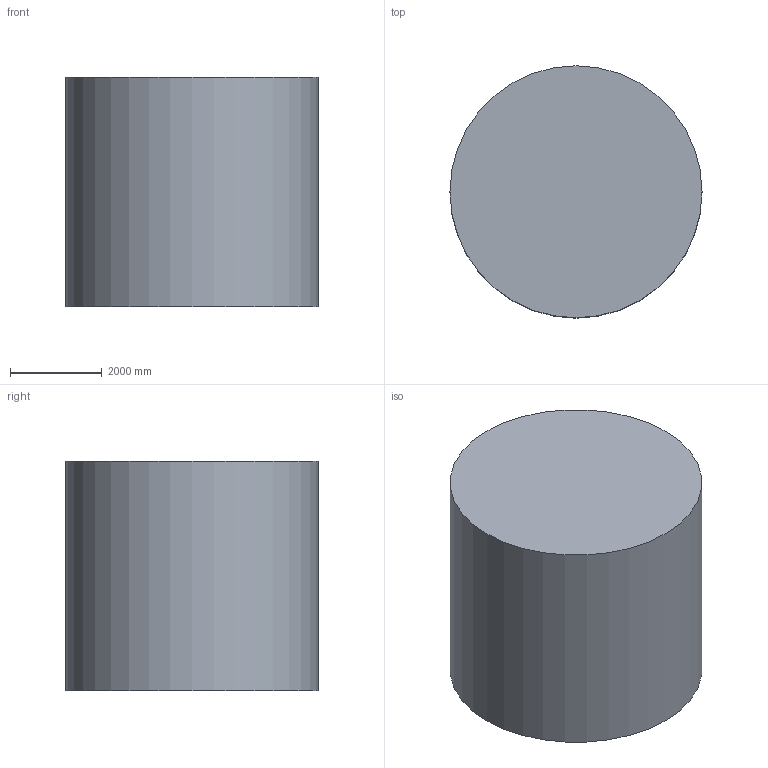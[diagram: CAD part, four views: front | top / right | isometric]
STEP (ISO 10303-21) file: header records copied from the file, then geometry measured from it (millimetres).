
FILE_DESCRIPTION(('Open CASCADE Model'),'2;1');
FILE_NAME('Open CASCADE Shape Model','2026-05-26T13:18:46',('Author'),( 'Open CASCADE'),'Open CASCADE STEP processor 7.8','build123d', 'Unknown');
FILE_SCHEMA(('AUTOMOTIVE_DESIGN { 1 0 10303 214 1 1 1 1 }'));
Length unit declared in the file: millimetre
Products named in the file (2): =>[0:1:1:2]; COMPOUND
Assembly tree (1 placements, depth 2):
  =>[0:1:1:2]
    COMPOUND
Bounding box: 5500 x 5500 x 5000 mm (x, y, z)
Volume: 118791472213.9 mm3; surface area: 133910386.9 mm2
Topology: 1 solids, 1 shells, 3 faces, 3 edges, 2 vertices
Faces by surface type: plane 2, cylinder 1
Full cylindrical faces by diameter (mm): 5500 x1
Entity records: 126 total; most frequent: DIRECTION 21, CARTESIAN_POINT 16, AXIS2_PLACEMENT_3D 7, ORIENTED_EDGE 6, PCURVE 6, DEFINITIONAL_REPRESENTATION 6, LINE 5, VECTOR 5
